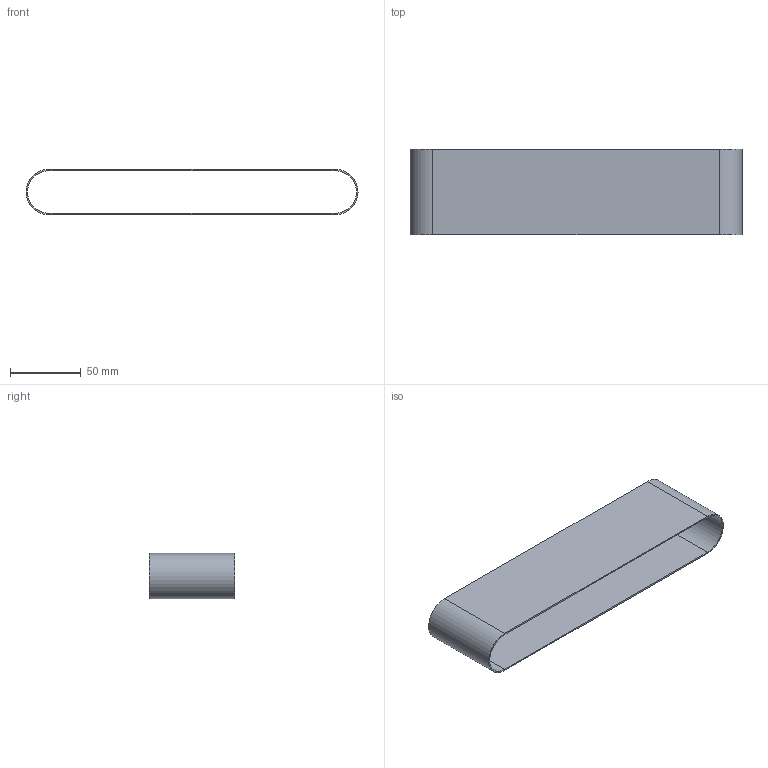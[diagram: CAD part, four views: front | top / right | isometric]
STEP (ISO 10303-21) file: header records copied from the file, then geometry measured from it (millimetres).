
FILE_DESCRIPTION(('Open CASCADE Model'),'2;1');
FILE_NAME('Open CASCADE Shape Model','2026-10-04T01:02:33',('Author'),( 'Open CASCADE'),'Open CASCADE STEP processor 8.0','Open CASCADE 8.0' ,'Unknown');
FILE_SCHEMA(('AUTOMOTIVE_DESIGN { 1 0 10303 214 1 1 1 1 }'));
Length unit declared in the file: millimetre
Products named in the file (1): Open CASCADE STEP translator 8.0 289
Bounding box: 234 x 60 x 32 mm (x, y, z)
Volume: 30083.4 mm3; surface area: 61169.5 mm2
Topology: 1 solids, 1 shells, 24 faces, 48 edges, 24 vertices
Faces by surface type: plane 20, cylinder 4
Entity records: 1234 total; most frequent: DIRECTION 210, CARTESIAN_POINT 193, LINE 104, VECTOR 104, ORIENTED_EDGE 96, PCURVE 96, DEFINITIONAL_REPRESENTATION 96, EDGE_CURVE 48
